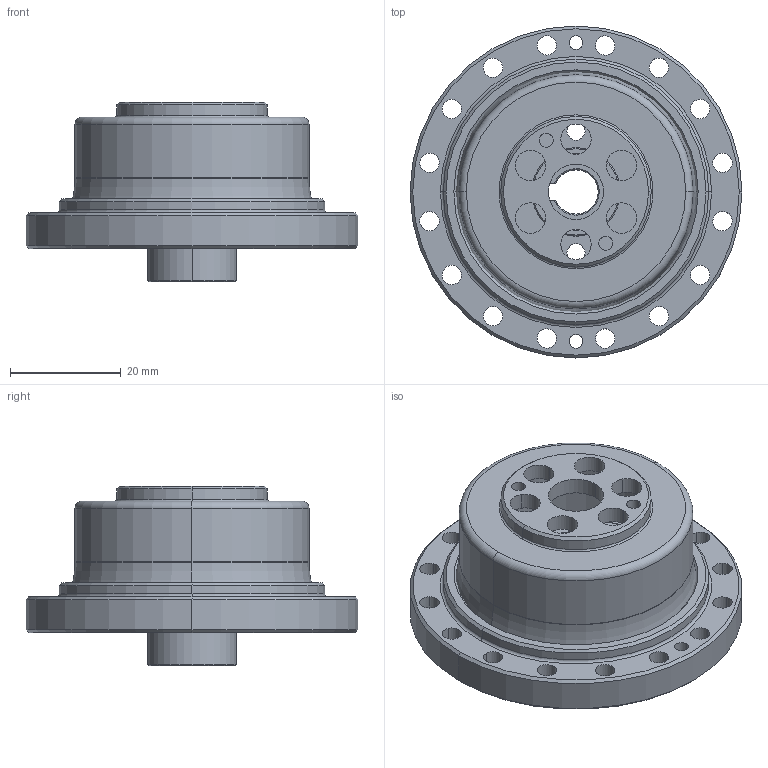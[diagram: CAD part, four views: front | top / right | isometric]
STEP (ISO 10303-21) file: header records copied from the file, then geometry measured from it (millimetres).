
FILE_DESCRIPTION (( 'STEP AP203' ), '1' );
FILE_NAME ('FCG-17-XXX-CJ.STEP', '2023-01-17T07:31:37', ( '微软用户' ), ( '微软中国' ), 'SwSTEP 2.0', 'SolidWorks 2016', '' );
FILE_SCHEMA (( 'CONFIG_CONTROL_DESIGN' ));
Length unit declared in the file: millimetre
Products named in the file (1): FCG-17-XXX-CJ
Bounding box: 60 x 60 x 32.5 mm (x, y, z)
Volume: 21153.7 mm3; surface area: 25288.2 mm2
Topology: 30 solids, 30 shells, 355 faces, 958 edges, 621 vertices
Faces by surface type: cylinder 174, plane 67, sphere 46, cone 38, torus 30
Entity records: 10688 total; most frequent: DIRECTION 2119, CARTESIAN_POINT 1759, ORIENTED_EDGE 1678, AXIS2_PLACEMENT_3D 928, EDGE_CURVE 839, CIRCLE 572, VERTEX_POINT 552, EDGE_LOOP 431
